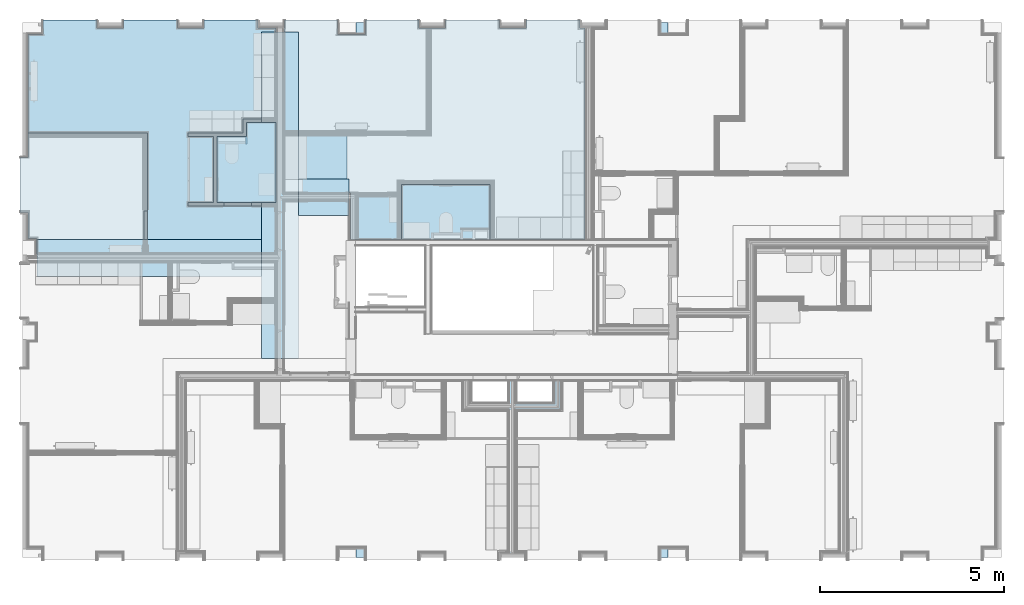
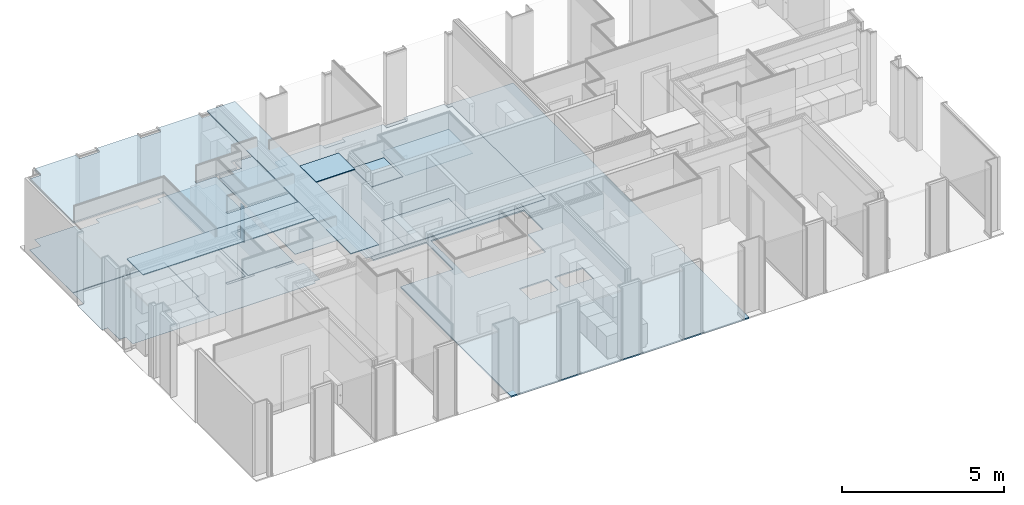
# One storey, part 45 of 65: 20 slabs.
"""IFC2X3 building model written with IfcOpenShell, lengths in metres."""

from ifc_helpers import new_model, entity, si_unit, converted_unit, derived_unit, money_unit, direction, frame, origin_with_axes, place, context, subcontext, project, spatial, faceted_brep, material, type_object, element, save


model = new_model("IFC2X3")

# Units and contexts
model_context = context("Model", 3, precision=1e-05, world=origin_with_axes(), true_north=direction((0.0, 1.0)))
body_context = subcontext(model_context, "Body", "Model", "MODEL_VIEW", scale=1.0)
ifc_project = project(units=[si_unit("LENGTHUNIT", "METRE"), si_unit("AREAUNIT", "SQUARE_METRE"), si_unit("VOLUMEUNIT", "CUBIC_METRE"), si_unit("ABSORBEDDOSEUNIT", "GRAY"), si_unit("AMOUNTOFSUBSTANCEUNIT", "MOLE"), si_unit("DOSEEQUIVALENTUNIT", "SIEVERT"), si_unit("ELECTRICCAPACITANCEUNIT", "FARAD"), si_unit("ELECTRICCHARGEUNIT", "COULOMB"), si_unit("ELECTRICCONDUCTANCEUNIT", "SIEMENS"), si_unit("ELECTRICCURRENTUNIT", "AMPERE"), si_unit("ELECTRICRESISTANCEUNIT", "OHM"), si_unit("ELECTRICVOLTAGEUNIT", "VOLT"), si_unit("ENERGYUNIT", "JOULE"), si_unit("FORCEUNIT", "NEWTON"), si_unit("FREQUENCYUNIT", "HERTZ"), si_unit("ILLUMINANCEUNIT", "LUX"), si_unit("INDUCTANCEUNIT", "HENRY"), si_unit("LUMINOUSFLUXUNIT", "LUMEN"), si_unit("LUMINOUSINTENSITYUNIT", "CANDELA"), si_unit("MAGNETICFLUXDENSITYUNIT", "TESLA"), si_unit("MAGNETICFLUXUNIT", "WEBER"), si_unit("MASSUNIT", "GRAM"), converted_unit("PLANEANGLEUNIT", "degree", entity("IfcReal", 0.0174532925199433), si_unit("PLANEANGLEUNIT", "RADIAN"), dimensions=[0, 0, 0, 0, 0, 0, 0]), si_unit("POWERUNIT", "WATT"), si_unit("PRESSUREUNIT", "PASCAL"), si_unit("RADIOACTIVITYUNIT", "BECQUEREL"), si_unit("SOLIDANGLEUNIT", "STERADIAN"), si_unit("THERMODYNAMICTEMPERATUREUNIT", "KELVIN"), si_unit("TIMEUNIT", "SECOND"), derived_unit("ACCELERATIONUNIT", [(si_unit("LENGTHUNIT", "METRE"), 1), (si_unit("TIMEUNIT", "SECOND"), -2)]), derived_unit("ANGULARVELOCITYUNIT", [(converted_unit("PLANEANGLEUNIT", "degree", entity("IfcReal", 0.0174532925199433), si_unit("PLANEANGLEUNIT", "RADIAN"), dimensions=[0, 0, 0, 0, 0, 0, 0]), 1), (si_unit("TIMEUNIT", "SECOND"), -1)]), derived_unit("CURVATUREUNIT", [(converted_unit("PLANEANGLEUNIT", "degree", entity("IfcReal", 0.0174532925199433), si_unit("PLANEANGLEUNIT", "RADIAN"), dimensions=[0, 0, 0, 0, 0, 0, 0]), 1), (si_unit("LENGTHUNIT", "METRE"), -1)]), derived_unit("DYNAMICVISCOSITYUNIT", [(si_unit("PRESSUREUNIT", "PASCAL"), 1), (si_unit("TIMEUNIT", "SECOND"), 1)]), derived_unit("HEATFLUXDENSITYUNIT", [(si_unit("POWERUNIT", "WATT"), 1), (si_unit("LENGTHUNIT", "METRE"), -2)]), derived_unit("HEATINGVALUEUNIT", [(si_unit("ENERGYUNIT", "JOULE"), 1), (si_unit("MASSUNIT", "GRAM"), -1)]), derived_unit("INTEGERCOUNTRATEUNIT", [(si_unit("TIMEUNIT", "SECOND"), -1)]), derived_unit("IONCONCENTRATIONUNIT", [(si_unit("MASSUNIT", "GRAM"), 1), (si_unit("VOLUMEUNIT", "CUBIC_METRE"), -1)]), derived_unit("ISOTHERMALMOISTURECAPACITYUNIT", [(si_unit("VOLUMEUNIT", "CUBIC_METRE"), 1), (si_unit("MASSUNIT", "GRAM"), -1)]), derived_unit("KINEMATICVISCOSITYUNIT", [(si_unit("AREAUNIT", "SQUARE_METRE"), 1), (si_unit("TIMEUNIT", "SECOND"), -1)]), derived_unit("LINEARFORCEUNIT", [(si_unit("FORCEUNIT", "NEWTON"), 1), (si_unit("LENGTHUNIT", "METRE"), -1)]), derived_unit("LINEARMOMENTUNIT", [(si_unit("FORCEUNIT", "NEWTON"), 1), (si_unit("LENGTHUNIT", "METRE"), -1)]), derived_unit("LINEARSTIFFNESSUNIT", [(si_unit("FORCEUNIT", "NEWTON"), 1), (si_unit("LENGTHUNIT", "METRE"), -1)]), derived_unit("LINEARVELOCITYUNIT", [(si_unit("LENGTHUNIT", "METRE"), 1), (si_unit("TIMEUNIT", "SECOND"), -1)]), derived_unit("LUMINOUSINTENSITYDISTRIBUTIONUNIT", [(si_unit("LUMINOUSINTENSITYUNIT", "CANDELA"), 1), (si_unit("LUMINOUSFLUXUNIT", "LUMEN"), -1)]), derived_unit("MASSDENSITYUNIT", [(si_unit("MASSUNIT", "GRAM"), 1), (si_unit("VOLUMEUNIT", "CUBIC_METRE"), -1)]), derived_unit("MASSFLOWRATEUNIT", [(si_unit("MASSUNIT", "GRAM"), 1), (si_unit("TIMEUNIT", "SECOND"), -1)]), derived_unit("MASSPERLENGTHUNIT", [(si_unit("MASSUNIT", "GRAM"), 1), (si_unit("LENGTHUNIT", "METRE"), -1)]), derived_unit("MODULUSOFELASTICITYUNIT", [(si_unit("FORCEUNIT", "NEWTON"), 1), (si_unit("AREAUNIT", "SQUARE_METRE"), -1)]), derived_unit("MODULUSOFLINEARSUBGRADEREACTIONUNIT", [(si_unit("FORCEUNIT", "NEWTON"), 1), (si_unit("LENGTHUNIT", "METRE"), -2)]), derived_unit("MODULUSOFROTATIONALSUBGRADEREACTIONUNIT", [(si_unit("FORCEUNIT", "NEWTON"), 1), (si_unit("LENGTHUNIT", "METRE"), 1)]), derived_unit("MODULUSOFSUBGRADEREACTIONUNIT", [(si_unit("FORCEUNIT", "NEWTON"), 1), (si_unit("VOLUMEUNIT", "CUBIC_METRE"), -1)]), derived_unit("MOISTUREDIFFUSIVITYUNIT", [(si_unit("VOLUMEUNIT", "CUBIC_METRE"), 1), (si_unit("TIMEUNIT", "SECOND"), -1)]), derived_unit("MOLECULARWEIGHTUNIT", [(si_unit("MASSUNIT", "GRAM"), 1), (si_unit("AMOUNTOFSUBSTANCEUNIT", "MOLE"), -1)]), derived_unit("PLANARFORCEUNIT", [(si_unit("FORCEUNIT", "NEWTON"), 1), (si_unit("LENGTHUNIT", "METRE"), -2)]), derived_unit("ROTATIONALFREQUENCYUNIT", [(si_unit("TIMEUNIT", "SECOND"), -1)]), derived_unit("ROTATIONALMASSUNIT", [(si_unit("MASSUNIT", "GRAM"), 1), (si_unit("LENGTHUNIT", "METRE"), 2)]), derived_unit("ROTATIONALSTIFFNESSUNIT", [(si_unit("FORCEUNIT", "NEWTON"), 1), (si_unit("LENGTHUNIT", "METRE"), 1), (converted_unit("PLANEANGLEUNIT", "degree", entity("IfcReal", 0.0174532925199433), si_unit("PLANEANGLEUNIT", "RADIAN"), dimensions=[0, 0, 0, 0, 0, 0, 0]), -1)]), derived_unit("SECTIONAREAINTEGRALUNIT", [(si_unit("LENGTHUNIT", "METRE"), 5)]), derived_unit("SECTIONMODULUSUNIT", [(si_unit("LENGTHUNIT", "METRE"), 3)]), derived_unit("SHEARMODULUSUNIT", [(si_unit("FORCEUNIT", "NEWTON"), 1), (si_unit("AREAUNIT", "SQUARE_METRE"), -1)]), derived_unit("SOUNDPOWERUNIT", [(si_unit("ENERGYUNIT", "JOULE"), 1), (si_unit("TIMEUNIT", "SECOND"), -1)]), derived_unit("SPECIFICHEATCAPACITYUNIT", [(si_unit("FORCEUNIT", "NEWTON"), 1), (si_unit("MASSUNIT", "GRAM"), -1), (si_unit("THERMODYNAMICTEMPERATUREUNIT", "KELVIN"), -1)]), derived_unit("TEMPERATUREGRADIENTUNIT", [(si_unit("THERMODYNAMICTEMPERATUREUNIT", "KELVIN"), 1), (si_unit("LENGTHUNIT", "METRE"), -1)]), derived_unit("THERMALADMITTANCEUNIT", [(si_unit("POWERUNIT", "WATT"), 1), (si_unit("AREAUNIT", "SQUARE_METRE"), -1), (si_unit("THERMODYNAMICTEMPERATUREUNIT", "KELVIN"), -1)]), derived_unit("THERMALCONDUCTANCEUNIT", [(si_unit("POWERUNIT", "WATT"), 1), (si_unit("LENGTHUNIT", "METRE"), -1), (si_unit("THERMODYNAMICTEMPERATUREUNIT", "KELVIN"), -1)]), derived_unit("THERMALEXPANSIONCOEFFICIENTUNIT", [(si_unit("THERMODYNAMICTEMPERATUREUNIT", "KELVIN"), -1)]), derived_unit("THERMALRESISTANCEUNIT", [(si_unit("AREAUNIT", "SQUARE_METRE"), 1), (si_unit("POWERUNIT", "WATT"), -1)]), derived_unit("THERMALTRANSMITTANCEUNIT", [(si_unit("POWERUNIT", "WATT"), 1), (si_unit("AREAUNIT", "SQUARE_METRE"), -1), (si_unit("THERMODYNAMICTEMPERATUREUNIT", "KELVIN"), -1)]), derived_unit("TORQUEUNIT", [(si_unit("FORCEUNIT", "NEWTON"), 1), (si_unit("LENGTHUNIT", "METRE"), 1)]), derived_unit("VAPORPERMEABILITYUNIT", [(si_unit("MASSUNIT", "GRAM"), 1), (si_unit("TIMEUNIT", "SECOND"), -1)]), derived_unit("VOLUMETRICFLOWRATEUNIT", [(si_unit("VOLUMEUNIT", "CUBIC_METRE"), 1), (si_unit("TIMEUNIT", "SECOND"), -1)]), derived_unit("WARPINGCONSTANTUNIT", [(si_unit("LENGTHUNIT", "METRE"), 6)]), derived_unit("WARPINGMOMENTUNIT", [(si_unit("FORCEUNIT", "NEWTON"), 1), (si_unit("LENGTHUNIT", "METRE"), 2)]), money_unit("GBP")], contexts=[model_context])

# Site, building, storey
site_placement = place(None, origin_with_axes())
site = spatial("IfcSite", under=ifc_project, at=site_placement, Name="Site", CompositionType="ELEMENT")
building_placement = place(site_placement, origin_with_axes())
building = spatial("IfcBuilding", under=site, at=building_placement, Name="Building01", CompositionType="ELEMENT")
storey_placement = place(building_placement, frame((0.0, 0.0, 8.64), z_axis=(0.0, 0.0, 1.0), x_axis=(1.0, 0.0, 0.0)))
storey = spatial("IfcBuildingStorey", under=building, at=storey_placement, Name="2F", CompositionType="ELEMENT", Elevation=8.64)

# Slabs
ifc_material_1 = material(Name="A_BSUK_InternalFinishes_FloorScreed")
slab_type_1 = type_object("IfcSlabType", Name="A-FloorsSlabs A_BSUK_Slabs", PredefinedType="FLOOR")
placement = place(storey_placement, frame((0.0, 0.0, -8.64), z_axis=(0.0, 0.0, 1.0), x_axis=(1.0, 0.0, 0.0)))
element("IfcSlab", 1, at=placement, inside=storey, type_object=slab_type_1, material=ifc_material_1, Name="A-FloorsSlabs A_BSUK_Slabs", ObjectType="CompoundSlabLeaf", context=body_context, shape_type="Brep", body=[
    faceted_brep([(11.13, 8.65, 8.64), (11.13, 6.98, 8.64), (9.25, 6.98, 8.64), (9.25, 0.17, 8.64), (17.73, 0.17, 8.64), (17.73, 14.73, 8.64), (9.25, 14.73, 8.64), (9.25, 8.65, 8.64), (13.375, 5.05385, 8.64), (13.375, 4.389428, 8.64), (12.375, 4.389428, 8.64), (12.375, 5.05385, 8.64), (14.625, 5.05385, 8.64), (14.625, 4.389428, 8.64), (13.625, 4.389428, 8.64), (13.625, 5.05385, 8.64), (14.059316, 6.35, 8.64), (11.3, 6.35, 8.64), (11.3, 8.65, 8.64), (14.609584, 8.65, 8.64), (14.609584, 7.454282, 8.64), (14.059316, 7.454282, 8.64), (11.13, 8.65, 8.59), (9.25, 8.65, 8.59), (9.25, 14.73, 8.59), (17.73, 14.73, 8.59), (17.73, 0.17, 8.59), (9.25, 0.17, 8.59), (9.25, 6.98, 8.59), (11.13, 6.98, 8.59), (13.375, 5.05385, 8.59), (12.375, 5.05385, 8.59), (12.375, 4.389428, 8.59), (13.375, 4.389428, 8.59), (14.059316, 6.35, 8.59), (14.059316, 7.454282, 8.59), (14.609584, 7.454282, 8.59), (14.609584, 8.65, 8.59), (11.3, 8.65, 8.59), (11.3, 6.35, 8.59), (14.625, 5.05385, 8.59), (13.625, 5.05385, 8.59), (13.625, 4.389428, 8.59), (14.625, 4.389428, 8.59)], [[[0, 1, 2, 3, 4, 5, 6, 7], [8, 9, 10, 11], [12, 13, 14, 15], [16, 17, 18, 19, 20, 21]], [[22, 23, 24, 25, 26, 27, 28, 29], [30, 31, 32, 33], [34, 35, 36, 37, 38, 39], [40, 41, 42, 43]], [[23, 7, 6, 24]], [[2, 28, 27, 3]], [[35, 21, 20, 36]], [[24, 6, 5, 25]], [[26, 4, 3, 27]], [[25, 5, 4, 26]], [[15, 41, 40, 12]], [[12, 40, 43, 13]], [[13, 43, 42, 14]], [[14, 42, 41, 15]], [[11, 31, 30, 8]], [[8, 30, 33, 9]], [[9, 33, 32, 10]], [[10, 32, 31, 11]], [[18, 38, 37, 19]], [[19, 37, 36, 20]], [[17, 39, 38, 18]], [[16, 34, 39, 17]], [[21, 35, 34, 16]], [[0, 22, 29, 1]], [[7, 23, 22, 0]], [[1, 29, 28, 2]]]),
])
ifc_material_2 = material(Name="A_BSUK_ExpandedPolystyreneBoards")
element("IfcSlab", 2, at=placement, inside=storey, type_object=slab_type_1, material=ifc_material_2, Name="A-FloorsSlabs A_BSUK_Slabs", ObjectType="CompoundSlabLeaf", context=body_context, shape_type="Brep", body=[
    faceted_brep([(0.725, 14.402, 8.64), (0.725, 14.402, 8.643), (0.725, 14.8, 8.643), (0.725, 14.8, 8.64), (0.318, 14.402, 8.64), (0.318, 14.402, 8.643), (0.318, 11.055, 8.64), (0.318, 11.055, 8.643), (0.1, 11.055, 8.64), (0.1, 11.055, 8.643), (0.1, 9.56218, 8.64), (0.1, 9.56218, 8.643), (0.318, 9.56218, 8.64), (0.318, 9.56218, 8.643), (0.318, 8.848, 8.64), (0.318, 8.848, 8.643), (0.548, 8.848, 8.64), (0.548, 8.848, 8.643), (0.548, 8.43567, 8.64), (0.548, 8.43567, 8.643), (7.064669, 8.43567, 8.64), (7.064669, 8.43567, 8.643), (7.064669, 8.550704, 8.64), (7.064669, 8.550704, 8.643), (7.289669, 8.550704, 8.64), (7.289669, 8.550704, 8.643), (7.289669, 9.550704, 8.64), (7.289669, 9.550704, 8.643), (7.064669, 9.550704, 8.64), (7.064669, 9.550704, 8.643), (7.064669, 14.582, 8.64), (7.064669, 14.582, 8.643), (6.574876, 14.582, 8.64), (6.574876, 14.582, 8.643), (6.574876, 14.8, 8.64), (6.574876, 14.8, 8.643), (5.105, 14.8, 8.64), (5.105, 14.8, 8.643), (5.105, 14.582, 8.64), (5.105, 14.582, 8.643), (4.385, 14.582, 8.64), (4.385, 14.582, 8.643), (4.385, 14.8, 8.64), (4.385, 14.8, 8.643), (2.915, 14.8, 8.64), (2.915, 14.8, 8.643), (2.915, 14.582, 8.64), (2.915, 14.582, 8.643), (2.195, 14.582, 8.64), (2.195, 14.582, 8.643), (2.195, 14.8, 8.64), (2.195, 14.8, 8.643)], [[[0, 1, 2, 3]], [[4, 5, 1, 0]], [[6, 7, 5, 4]], [[8, 9, 7, 6]], [[10, 11, 9, 8]], [[12, 13, 11, 10]], [[14, 15, 13, 12]], [[16, 17, 15, 14]], [[18, 19, 17, 16]], [[20, 21, 19, 18]], [[22, 23, 21, 20]], [[24, 25, 23, 22]], [[26, 27, 25, 24]], [[28, 29, 27, 26]], [[30, 31, 29, 28]], [[32, 33, 31, 30]], [[34, 35, 33, 32]], [[36, 37, 35, 34]], [[38, 39, 37, 36]], [[40, 41, 39, 38]], [[42, 43, 41, 40]], [[44, 45, 43, 42]], [[46, 47, 45, 44]], [[48, 49, 47, 46]], [[50, 51, 49, 48]], [[3, 2, 51, 50]], [[1, 5, 7, 9, 11, 13, 15, 17, 19, 21, 23, 25, 27, 29, 31, 33, 35, 37, 39, 41, 43, 45, 47, 49, 51, 2]], [[3, 50, 48, 46, 44, 42, 40, 38, 36, 34, 32, 30, 28, 26, 24, 22, 20, 18, 16, 14, 12, 10, 8, 6, 4, 0]]]),
])
element("IfcSlab", 3, at=placement, inside=storey, type_object=slab_type_1, material=ifc_material_2, Name="A-FloorsSlabs A_BSUK_Slabs", ObjectType="CompoundSlabLeaf", context=body_context, shape_type="Brep", body=[
    faceted_brep([(7.289669, 10.087704, 8.64), (7.289669, 10.087704, 8.643), (7.289669, 14.582, 8.643), (7.289669, 14.582, 8.64), (9.09, 10.087704, 8.64), (9.09, 10.087704, 8.643), (9.09, 9.200704, 8.64), (9.09, 9.200704, 8.643), (9.09, 8.82, 8.64), (9.09, 8.82, 8.643), (12.893585, 8.82, 8.64), (12.893585, 8.82, 8.643), (15.483132, 8.82, 8.64), (15.483132, 8.82, 8.643), (15.483132, 14.582, 8.64), (15.483132, 14.582, 8.643), (15.335, 14.582, 8.64), (15.335, 14.582, 8.643), (15.335, 14.8, 8.64), (15.335, 14.8, 8.643), (13.865, 14.8, 8.64), (13.865, 14.8, 8.643), (13.865, 14.582, 8.64), (13.865, 14.582, 8.643), (13.145, 14.582, 8.64), (13.145, 14.582, 8.643), (13.145, 14.8, 8.64), (13.145, 14.8, 8.643), (11.675, 14.8, 8.64), (11.675, 14.8, 8.643), (11.675, 14.582, 8.64), (11.675, 14.582, 8.643), (10.955, 14.582, 8.64), (10.955, 14.582, 8.643), (10.955, 14.8, 8.64), (10.955, 14.8, 8.643), (9.508, 14.8, 8.64), (9.508, 14.8, 8.643), (9.508, 14.402, 8.64), (9.508, 14.402, 8.643), (8.742, 14.402, 8.64), (8.742, 14.402, 8.643), (8.742, 14.8, 8.64), (8.742, 14.8, 8.643), (7.295, 14.8, 8.64), (7.295, 14.8, 8.643), (7.295, 14.582, 8.64), (7.295, 14.582, 8.643)], [[[0, 1, 2, 3]], [[4, 5, 1, 0]], [[6, 7, 5, 4]], [[8, 9, 7, 6]], [[10, 11, 9, 8]], [[12, 13, 11, 10]], [[14, 15, 13, 12]], [[16, 17, 15, 14]], [[18, 19, 17, 16]], [[20, 21, 19, 18]], [[22, 23, 21, 20]], [[24, 25, 23, 22]], [[26, 27, 25, 24]], [[28, 29, 27, 26]], [[30, 31, 29, 28]], [[32, 33, 31, 30]], [[34, 35, 33, 32]], [[36, 37, 35, 34]], [[38, 39, 37, 36]], [[40, 41, 39, 38]], [[42, 43, 41, 40]], [[44, 45, 43, 42]], [[46, 47, 45, 44]], [[3, 2, 47, 46]], [[1, 5, 7, 9, 11, 13, 15, 17, 19, 21, 23, 25, 27, 29, 31, 33, 35, 37, 39, 41, 43, 45, 47, 2]], [[3, 46, 44, 42, 40, 38, 36, 34, 32, 30, 28, 26, 24, 22, 20, 18, 16, 14, 12, 10, 8, 6, 4, 0]]]),
])
ifc_material_3 = material(Name="A_BSUK_Parquet_Floor")
element("IfcSlab", 4, at=placement, inside=storey, type_object=slab_type_1, material=ifc_material_3, Name="A-FloorsSlabs A_BSUK_Slabs", ObjectType="CompoundSlabLeaf", context=body_context, shape_type="Brep", body=[
    faceted_brep([(7.289669, 9.550704, 8.643), (7.289669, 9.550704, 8.655), (7.289669, 8.550704, 8.655), (7.289669, 8.550704, 8.643), (7.064669, 9.550704, 8.643), (7.064669, 9.550704, 8.655), (7.064669, 9.73567, 8.643), (7.064669, 9.73567, 8.655), (6.398669, 9.73567, 8.643), (6.398669, 9.73567, 8.655), (6.398669, 9.83067, 8.643), (6.398669, 9.83067, 8.655), (5.648669, 9.83067, 8.643), (5.648669, 9.83067, 8.655), (5.648669, 9.73567, 8.643), (5.648669, 9.73567, 8.655), (4.669669, 9.73567, 8.643), (4.669669, 9.73567, 8.655), (4.669669, 9.83067, 8.643), (4.669669, 9.83067, 8.655), (5.369669, 9.83067, 8.643), (5.369669, 9.83067, 8.655), (5.369669, 11.63067, 8.643), (5.369669, 11.63067, 8.655), (4.669669, 11.63067, 8.643), (4.669669, 11.63067, 8.655), (4.669669, 11.72567, 8.643), (4.669669, 11.72567, 8.655), (4.719669, 11.72567, 8.643), (4.719669, 11.72567, 8.655), (6.169669, 11.72567, 8.643), (6.169669, 11.72567, 8.655), (6.169669, 12.11067, 8.643), (6.169669, 12.11067, 8.655), (7.064669, 12.11067, 8.643), (7.064669, 12.11067, 8.655), (7.064669, 14.582, 8.643), (7.064669, 14.582, 8.655), (6.574876, 14.582, 8.643), (6.574876, 14.582, 8.655), (6.574876, 14.8, 8.643), (6.574876, 14.8, 8.655), (5.105, 14.8, 8.643), (5.105, 14.8, 8.655), (5.105, 14.582, 8.643), (5.105, 14.582, 8.655), (4.385, 14.582, 8.643), (4.385, 14.582, 8.655), (4.385, 14.8, 8.643), (4.385, 14.8, 8.655), (2.915, 14.8, 8.643), (2.915, 14.8, 8.655), (2.915, 14.582, 8.643), (2.915, 14.582, 8.655), (2.195, 14.582, 8.643), (2.195, 14.582, 8.655), (2.195, 14.8, 8.643), (2.195, 14.8, 8.655), (0.725, 14.8, 8.643), (0.725, 14.8, 8.655), (0.725, 14.582, 8.643), (0.725, 14.582, 8.655), (0.725, 14.402, 8.643), (0.725, 14.402, 8.655), (0.318, 14.402, 8.643), (0.318, 14.402, 8.655), (0.318, 11.72567, 8.643), (0.318, 11.72567, 8.655), (3.569669, 11.72567, 8.643), (3.569669, 11.72567, 8.655), (3.569669, 9.600704, 8.643), (3.569669, 9.600704, 8.655), (3.474669, 9.600704, 8.643), (3.474669, 9.600704, 8.655), (3.474669, 8.700704, 8.643), (3.474669, 8.700704, 8.655), (3.569669, 8.700704, 8.643), (3.569669, 8.700704, 8.655), (3.569669, 8.43567, 8.643), (3.569669, 8.43567, 8.655), (7.064669, 8.43567, 8.643), (7.064669, 8.43567, 8.655), (7.064669, 8.550704, 8.643), (7.064669, 8.550704, 8.655)], [[[0, 1, 2, 3]], [[4, 5, 1, 0]], [[6, 7, 5, 4]], [[8, 9, 7, 6]], [[10, 11, 9, 8]], [[12, 13, 11, 10]], [[14, 15, 13, 12]], [[16, 17, 15, 14]], [[18, 19, 17, 16]], [[20, 21, 19, 18]], [[22, 23, 21, 20]], [[24, 25, 23, 22]], [[26, 27, 25, 24]], [[28, 29, 27, 26]], [[30, 31, 29, 28]], [[32, 33, 31, 30]], [[34, 35, 33, 32]], [[36, 37, 35, 34]], [[38, 39, 37, 36]], [[40, 41, 39, 38]], [[42, 43, 41, 40]], [[44, 45, 43, 42]], [[46, 47, 45, 44]], [[48, 49, 47, 46]], [[50, 51, 49, 48]], [[52, 53, 51, 50]], [[54, 55, 53, 52]], [[56, 57, 55, 54]], [[58, 59, 57, 56]], [[60, 61, 59, 58]], [[62, 63, 61, 60]], [[64, 65, 63, 62]], [[66, 67, 65, 64]], [[68, 69, 67, 66]], [[70, 71, 69, 68]], [[72, 73, 71, 70]], [[74, 75, 73, 72]], [[76, 77, 75, 74]], [[78, 79, 77, 76]], [[80, 81, 79, 78]], [[82, 83, 81, 80]], [[3, 2, 83, 82]], [[1, 5, 7, 9, 11, 13, 15, 17, 19, 21, 23, 25, 27, 29, 31, 33, 35, 37, 39, 41, 43, 45, 47, 49, 51, 53, 55, 57, 59, 61, 63, 65, 67, 69, 71, 73, 75, 77, 79, 81, 83, 2]], [[3, 82, 80, 78, 76, 74, 72, 70, 68, 66, 64, 62, 60, 58, 56, 54, 52, 50, 48, 46, 44, 42, 40, 38, 36, 34, 32, 30, 28, 26, 24, 22, 20, 18, 16, 14, 12, 10, 8, 6, 4, 0]]]),
])
ifc_material_4 = material(Name="A_BSUK_Ceramic_FloorTiles")
element("IfcSlab", 5, at=placement, inside=storey, type_object=slab_type_1, material=ifc_material_4, Name="A-FloorsSlabs A_BSUK_Slabs", ObjectType="CompoundSlabLeaf", context=body_context, shape_type="Brep", body=[
    faceted_brep([(5.464669, 10.53067, 8.643), (5.464669, 10.53067, 8.655), (5.464669, 11.63067, 8.655), (5.464669, 11.63067, 8.643), (5.464669, 9.83067, 8.643), (5.464669, 9.83067, 8.655), (7.064669, 9.83067, 8.643), (7.064669, 9.83067, 8.655), (7.064669, 12.01567, 8.643), (7.064669, 12.01567, 8.655), (6.264669, 12.01567, 8.643), (6.264669, 12.01567, 8.655), (6.264669, 11.63067, 8.643), (6.264669, 11.63067, 8.655)], [[[0, 1, 2, 3]], [[4, 5, 1, 0]], [[6, 7, 5, 4]], [[8, 9, 7, 6]], [[10, 11, 9, 8]], [[12, 13, 11, 10]], [[3, 2, 13, 12]], [[1, 5, 7, 9, 11, 13, 2]], [[3, 12, 10, 8, 6, 4, 0]]]),
])
element("IfcSlab", 6, at=placement, inside=storey, type_object=slab_type_1, material=ifc_material_3, Name="A-FloorsSlabs A_BSUK_Slabs", ObjectType="CompoundSlabLeaf", context=body_context, shape_type="Brep", body=[
    faceted_brep([(7.289669, 10.087704, 8.643), (7.289669, 10.087704, 8.655), (7.289669, 11.668124, 8.655), (7.289669, 11.668124, 8.643), (8.995, 10.087704, 8.643), (8.995, 10.087704, 8.655), (8.995, 11.668124, 8.643), (8.995, 11.668124, 8.655)], [[[0, 1, 2, 3]], [[4, 5, 1, 0]], [[6, 7, 5, 4]], [[3, 2, 7, 6]], [[1, 5, 7, 2]], [[3, 6, 4, 0]]]),
])
element("IfcSlab", 7, at=placement, inside=storey, type_object=slab_type_1, material=ifc_material_4, Name="A-FloorsSlabs A_BSUK_Slabs", ObjectType="CompoundSlabLeaf", context=body_context, shape_type="Brep", body=[
    faceted_brep([(10.488871, 10.32, 8.643), (10.488871, 10.32, 8.655), (12.893585, 10.32, 8.655), (12.893585, 10.32, 8.643), (10.488871, 8.82, 8.643), (10.488871, 8.82, 8.655), (12.893585, 8.82, 8.643), (12.893585, 8.82, 8.655)], [[[0, 1, 2, 3]], [[4, 5, 1, 0]], [[6, 7, 5, 4]], [[3, 2, 7, 6]], [[1, 5, 7, 2]], [[3, 6, 4, 0]]]),
])
ifc_material_5 = material(Name="A_BSUK_CeilingSoffitFinishes_Suspended")
element("IfcSlab", 8, at=placement, inside=storey, type_object=slab_type_1, material=ifc_material_5, Name="A-FloorsSlabs A_BSUK_Slabs", ObjectType="CompoundSlabLeaf", context=body_context, shape_type="Brep", body=[
    faceted_brep([(4.669669, 9.73567, 11.255), (4.669669, 9.73567, 11.27), (7.064669, 9.73567, 11.27), (7.064669, 9.73567, 11.255), (4.669669, 9.83067, 11.255), (4.669669, 9.83067, 11.27), (5.369669, 9.83067, 11.255), (5.369669, 9.83067, 11.27), (5.369669, 11.63067, 11.255), (5.369669, 11.63067, 11.27), (4.669669, 11.63067, 11.255), (4.669669, 11.63067, 11.27), (4.669669, 11.72567, 11.255), (4.669669, 11.72567, 11.27), (6.169669, 11.72567, 11.255), (6.169669, 11.72567, 11.27), (6.169669, 12.11067, 11.255), (6.169669, 12.11067, 11.27), (7.064669, 12.11067, 11.255), (7.064669, 12.11067, 11.27), (7.064669, 14.567, 11.255), (7.064669, 14.567, 11.27), (6.559876, 14.567, 11.255), (6.559876, 14.567, 11.27), (6.559876, 14.8, 11.255), (6.559876, 14.8, 11.27), (5.105, 14.8, 11.255), (5.105, 14.8, 11.27), (5.105, 14.582, 11.255), (5.105, 14.582, 11.27), (4.385, 14.582, 11.255), (4.385, 14.582, 11.27), (4.385, 14.8, 11.255), (4.385, 14.8, 11.27), (2.915, 14.8, 11.255), (2.915, 14.8, 11.27), (2.915, 14.582, 11.255), (2.915, 14.582, 11.27), (2.195, 14.582, 11.255), (2.195, 14.582, 11.27), (2.195, 14.8, 11.255), (2.195, 14.8, 11.27), (0.725, 14.8, 11.255), (0.725, 14.8, 11.27), (0.725, 14.402, 11.255), (0.725, 14.402, 11.27), (0.318, 14.402, 11.255), (0.318, 14.402, 11.27), (0.318, 11.72567, 11.255), (0.318, 11.72567, 11.27), (3.569669, 11.72567, 11.255), (3.569669, 11.72567, 11.27), (3.569669, 8.43567, 11.255), (3.569669, 8.43567, 11.27), (7.064669, 8.43567, 11.255), (7.064669, 8.43567, 11.27)], [[[0, 1, 2, 3]], [[4, 5, 1, 0]], [[6, 7, 5, 4]], [[8, 9, 7, 6]], [[10, 11, 9, 8]], [[12, 13, 11, 10]], [[14, 15, 13, 12]], [[16, 17, 15, 14]], [[18, 19, 17, 16]], [[20, 21, 19, 18]], [[22, 23, 21, 20]], [[24, 25, 23, 22]], [[26, 27, 25, 24]], [[28, 29, 27, 26]], [[30, 31, 29, 28]], [[32, 33, 31, 30]], [[34, 35, 33, 32]], [[36, 37, 35, 34]], [[38, 39, 37, 36]], [[40, 41, 39, 38]], [[42, 43, 41, 40]], [[44, 45, 43, 42]], [[46, 47, 45, 44]], [[48, 49, 47, 46]], [[50, 51, 49, 48]], [[52, 53, 51, 50]], [[54, 55, 53, 52]], [[3, 2, 55, 54]], [[1, 5, 7, 9, 11, 13, 15, 17, 19, 21, 23, 25, 27, 29, 31, 33, 35, 37, 39, 41, 43, 45, 47, 49, 51, 53, 55, 2]], [[3, 54, 52, 50, 48, 46, 44, 42, 40, 38, 36, 34, 32, 30, 28, 26, 24, 22, 20, 18, 16, 14, 12, 10, 8, 6, 4, 0]]]),
])
element("IfcSlab", 9, at=placement, inside=storey, type_object=slab_type_1, material=ifc_material_5, Name="A-FloorsSlabs A_BSUK_Slabs", ObjectType="CompoundSlabLeaf", context=body_context, shape_type="Brep", body=[
    faceted_brep([(5.464669, 10.53067, 11.255), (5.464669, 10.53067, 11.27), (5.464669, 11.63067, 11.27), (5.464669, 11.63067, 11.255), (5.464669, 9.83067, 11.255), (5.464669, 9.83067, 11.27), (7.064669, 9.83067, 11.255), (7.064669, 9.83067, 11.27), (7.064669, 12.01567, 11.255), (7.064669, 12.01567, 11.27), (6.264669, 12.01567, 11.255), (6.264669, 12.01567, 11.27), (6.264669, 11.63067, 11.255), (6.264669, 11.63067, 11.27)], [[[0, 1, 2, 3]], [[4, 5, 1, 0]], [[6, 7, 5, 4]], [[8, 9, 7, 6]], [[10, 11, 9, 8]], [[12, 13, 11, 10]], [[3, 2, 13, 12]], [[1, 5, 7, 9, 11, 13, 2]], [[3, 12, 10, 8, 6, 4, 0]]]),
])
element("IfcSlab", 10, at=placement, inside=storey, type_object=slab_type_1, material=ifc_material_5, Name="A-FloorsSlabs A_BSUK_Slabs", ObjectType="CompoundSlabLeaf", context=body_context, shape_type="Brep", body=[
    faceted_brep([(10.488871, 10.32, 11.255), (10.488871, 10.32, 11.27), (12.893585, 10.32, 11.27), (12.893585, 10.32, 11.255), (10.488871, 8.82, 11.255), (10.488871, 8.82, 11.27), (12.893585, 8.82, 11.255), (12.893585, 8.82, 11.27)], [[[0, 1, 2, 3]], [[4, 5, 1, 0]], [[6, 7, 5, 4]], [[3, 2, 7, 6]], [[1, 5, 7, 2]], [[3, 6, 4, 0]]]),
])
element("IfcSlab", 11, at=placement, inside=storey, type_object=slab_type_1, material=ifc_material_5, Name="A-FloorsSlabs A_BSUK_Slabs", ObjectType="CompoundSlabLeaf", context=body_context, shape_type="Brep", body=[
    faceted_brep([(9.285, 8.82, 11.255), (9.285, 8.82, 11.27), (9.285, 9.992662, 11.27), (9.285, 9.992662, 11.255), (10.393585, 8.82, 11.255), (10.393585, 8.82, 11.27), (10.393585, 9.992662, 11.255), (10.393585, 9.992662, 11.27)], [[[0, 1, 2, 3]], [[4, 5, 1, 0]], [[6, 7, 5, 4]], [[3, 2, 7, 6]], [[1, 5, 7, 2]], [[3, 6, 4, 0]]]),
])
ifc_material_6 = material(Name="A_BSUK_Ceramic_WallTiles")
element("IfcSlab", 12, at=placement, inside=storey, type_object=slab_type_1, material=ifc_material_6, Name="A-FloorsSlabs A_BSUK_Slabs", ObjectType="CompoundSlabLeaf", context=body_context, shape_type="Brep", body=[
    faceted_brep([(6.239669, 11.43067, 10.015), (6.264669, 11.43067, 10.015), (6.264669, 11.63067, 10.015), (6.239669, 11.63067, 10.015), (6.239669, 11.430672, 8.64), (6.264669, 11.430672, 8.64), (6.239669, 11.63067, 8.64), (6.264669, 11.63067, 8.64)], [[[0, 1, 2, 3]], [[4, 5, 1, 0]], [[6, 7, 5, 4]], [[3, 2, 7, 6]], [[1, 5, 7, 2]], [[3, 6, 4, 0]]]),
])
element("IfcSlab", 13, at=placement, inside=storey, type_object=slab_type_1, material=ifc_material_5, Name="A-FloorsSlabs A_BSUK_Slabs", ObjectType="CompoundSlabLeaf", context=body_context, shape_type="Brep", body=[
    faceted_brep([(6.677169, 5.593, 11.605), (6.677169, 5.593, 11.62), (6.677169, 14.48, 11.62), (6.677169, 14.48, 11.605), (7.677169, 5.593, 11.605), (7.677169, 5.593, 11.62), (7.677169, 14.48, 11.605), (7.677169, 14.48, 11.62)], [[[0, 1, 2, 3]], [[4, 5, 1, 0]], [[6, 7, 5, 4]], [[3, 2, 7, 6]], [[1, 5, 7, 2]], [[3, 6, 4, 0]]]),
])
element("IfcSlab", 14, at=placement, inside=storey, type_object=slab_type_1, material=ifc_material_5, Name="A-FloorsSlabs A_BSUK_Slabs", ObjectType="CompoundSlabLeaf", context=body_context, shape_type="Brep", body=[
    faceted_brep([(7.677169, 9.475204, 11.605), (7.677169, 9.475204, 11.62), (7.677169, 10.475204, 11.62), (7.677169, 10.475204, 11.605), (9.06, 9.475204, 11.605), (9.06, 9.475204, 11.62), (9.06, 10.475204, 11.605), (9.06, 10.475204, 11.62)], [[[0, 1, 2, 3]], [[4, 5, 1, 0]], [[6, 7, 5, 4]], [[3, 2, 7, 6]], [[1, 5, 7, 2]], [[3, 6, 4, 0]]]),
])
element("IfcSlab", 15, at=placement, inside=storey, type_object=slab_type_1, material=ifc_material_5, Name="A-FloorsSlabs A_BSUK_Slabs", ObjectType="CompoundSlabLeaf", context=body_context, shape_type="Brep", body=[
    faceted_brep([(0.563, 7.82317, 11.605), (0.563, 7.82317, 11.62), (0.563, 8.82317, 11.62), (0.563, 8.82317, 11.605), (6.677169, 7.82317, 11.605), (6.677169, 7.82317, 11.62), (6.677169, 8.82317, 11.605), (6.677169, 8.82317, 11.62)], [[[0, 1, 2, 3]], [[4, 5, 1, 0]], [[6, 7, 5, 4]], [[3, 2, 7, 6]], [[1, 5, 7, 2]], [[3, 6, 4, 0]]]),
])
element("IfcSlab", 16, at=placement, inside=storey, type_object=slab_type_1, material=ifc_material_5, Name="A-FloorsSlabs A_BSUK_Slabs", ObjectType="CompoundSlabLeaf", context=body_context, shape_type="Brep", body=[
    faceted_brep([(6.677169, 5.593, 11.59), (6.677169, 5.593, 11.605), (6.677169, 14.48, 11.605), (6.677169, 14.48, 11.59), (7.677169, 5.593, 11.59), (7.677169, 5.593, 11.605), (7.677169, 14.48, 11.59), (7.677169, 14.48, 11.605)], [[[0, 1, 2, 3]], [[4, 5, 1, 0]], [[6, 7, 5, 4]], [[3, 2, 7, 6]], [[1, 5, 7, 2]], [[3, 6, 4, 0]]]),
])
element("IfcSlab", 17, at=placement, inside=storey, type_object=slab_type_1, material=ifc_material_5, Name="A-FloorsSlabs A_BSUK_Slabs", ObjectType="CompoundSlabLeaf", context=body_context, shape_type="Brep", body=[
    faceted_brep([(7.677169, 9.475204, 11.59), (7.677169, 9.475204, 11.605), (7.677169, 10.475204, 11.605), (7.677169, 10.475204, 11.59), (9.06, 9.475204, 11.59), (9.06, 9.475204, 11.605), (9.06, 10.475204, 11.59), (9.06, 10.475204, 11.605)], [[[0, 1, 2, 3]], [[4, 5, 1, 0]], [[6, 7, 5, 4]], [[3, 2, 7, 6]], [[1, 5, 7, 2]], [[3, 6, 4, 0]]]),
])
element("IfcSlab", 18, at=placement, inside=storey, type_object=slab_type_1, material=ifc_material_5, Name="A-FloorsSlabs A_BSUK_Slabs", ObjectType="CompoundSlabLeaf", context=body_context, shape_type="Brep", body=[
    faceted_brep([(0.563, 7.82317, 11.59), (0.563, 7.82317, 11.605), (0.563, 8.82317, 11.605), (0.563, 8.82317, 11.59), (6.677169, 7.82317, 11.59), (6.677169, 7.82317, 11.605), (6.677169, 8.82317, 11.59), (6.677169, 8.82317, 11.605)], [[[0, 1, 2, 3]], [[4, 5, 1, 0]], [[6, 7, 5, 4]], [[3, 2, 7, 6]], [[1, 5, 7, 2]], [[3, 6, 4, 0]]]),
])
slab_type_2 = type_object("IfcSlabType", Name="A-FloorsSlabs A_BSUK_ExpandedPolystyreneBoards", PredefinedType="FLOOR")
element("IfcSlab", 19, at=placement, inside=storey, type_object=slab_type_2, material=ifc_material_2, Name="A-FloorsSlabs A_BSUK_ExpandedPolystyreneBoards", ObjectType="CompoundSlabLeaf", context=body_context, shape_type="Brep", body=[
    faceted_brep([(4.669669, 9.73567, 11.27), (4.669669, 9.73567, 11.32), (7.064669, 9.73567, 11.32), (7.064669, 9.73567, 11.27), (4.669669, 9.83067, 11.27), (4.669669, 9.83067, 11.32), (5.369669, 9.83067, 11.27), (5.369669, 9.83067, 11.32), (5.369669, 11.63067, 11.27), (5.369669, 11.63067, 11.32), (4.669669, 11.63067, 11.27), (4.669669, 11.63067, 11.32), (4.669669, 11.72567, 11.27), (4.669669, 11.72567, 11.32), (6.169669, 11.72567, 11.27), (6.169669, 11.72567, 11.32), (6.169669, 12.11067, 11.27), (6.169669, 12.11067, 11.32), (7.064669, 12.11067, 11.27), (7.064669, 12.11067, 11.32), (7.064669, 14.582, 11.27), (7.064669, 14.582, 11.32), (6.574876, 14.582, 11.27), (6.574876, 14.582, 11.32), (6.574876, 14.8, 11.27), (6.574876, 14.8, 11.32), (5.105, 14.8, 11.27), (5.105, 14.8, 11.32), (5.105, 14.582, 11.27), (5.105, 14.582, 11.32), (4.385, 14.582, 11.27), (4.385, 14.582, 11.32), (4.385, 14.8, 11.27), (4.385, 14.8, 11.32), (2.915, 14.8, 11.27), (2.915, 14.8, 11.32), (2.915, 14.582, 11.27), (2.915, 14.582, 11.32), (2.195, 14.582, 11.27), (2.195, 14.582, 11.32), (2.195, 14.8, 11.27), (2.195, 14.8, 11.32), (0.725, 14.8, 11.27), (0.725, 14.8, 11.32), (0.725, 14.402, 11.27), (0.725, 14.402, 11.32), (0.318, 14.402, 11.27), (0.318, 14.402, 11.32), (0.318, 11.72567, 11.27), (0.318, 11.72567, 11.32), (3.569669, 11.72567, 11.27), (3.569669, 11.72567, 11.32), (3.569669, 8.43567, 11.27), (3.569669, 8.43567, 11.32), (7.064669, 8.43567, 11.27), (7.064669, 8.43567, 11.32)], [[[0, 1, 2, 3]], [[4, 5, 1, 0]], [[6, 7, 5, 4]], [[8, 9, 7, 6]], [[10, 11, 9, 8]], [[12, 13, 11, 10]], [[14, 15, 13, 12]], [[16, 17, 15, 14]], [[18, 19, 17, 16]], [[20, 21, 19, 18]], [[22, 23, 21, 20]], [[24, 25, 23, 22]], [[26, 27, 25, 24]], [[28, 29, 27, 26]], [[30, 31, 29, 28]], [[32, 33, 31, 30]], [[34, 35, 33, 32]], [[36, 37, 35, 34]], [[38, 39, 37, 36]], [[40, 41, 39, 38]], [[42, 43, 41, 40]], [[44, 45, 43, 42]], [[46, 47, 45, 44]], [[48, 49, 47, 46]], [[50, 51, 49, 48]], [[52, 53, 51, 50]], [[54, 55, 53, 52]], [[3, 2, 55, 54]], [[1, 5, 7, 9, 11, 13, 15, 17, 19, 21, 23, 25, 27, 29, 31, 33, 35, 37, 39, 41, 43, 45, 47, 49, 51, 53, 55, 2]], [[3, 54, 52, 50, 48, 46, 44, 42, 40, 38, 36, 34, 32, 30, 28, 26, 24, 22, 20, 18, 16, 14, 12, 10, 8, 6, 4, 0]]]),
])
element("IfcSlab", 20, at=placement, inside=storey, type_object=slab_type_2, material=ifc_material_2, Name="A-FloorsSlabs A_BSUK_ExpandedPolystyreneBoards", ObjectType="CompoundSlabLeaf", context=body_context, shape_type="Brep", body=[
    faceted_brep([(5.464669, 10.53067, 11.27), (5.464669, 10.53067, 11.32), (5.464669, 11.63067, 11.32), (5.464669, 11.63067, 11.27), (5.464669, 9.83067, 11.27), (5.464669, 9.83067, 11.32), (7.064669, 9.83067, 11.27), (7.064669, 9.83067, 11.32), (7.064669, 12.01567, 11.27), (7.064669, 12.01567, 11.32), (6.264669, 12.01567, 11.27), (6.264669, 12.01567, 11.32), (6.264669, 11.63067, 11.27), (6.264669, 11.63067, 11.32)], [[[0, 1, 2, 3]], [[4, 5, 1, 0]], [[6, 7, 5, 4]], [[8, 9, 7, 6]], [[10, 11, 9, 8]], [[12, 13, 11, 10]], [[3, 2, 13, 12]], [[1, 5, 7, 9, 11, 13, 2]], [[3, 12, 10, 8, 6, 4, 0]]]),
])

save(model, "model.ifc")
